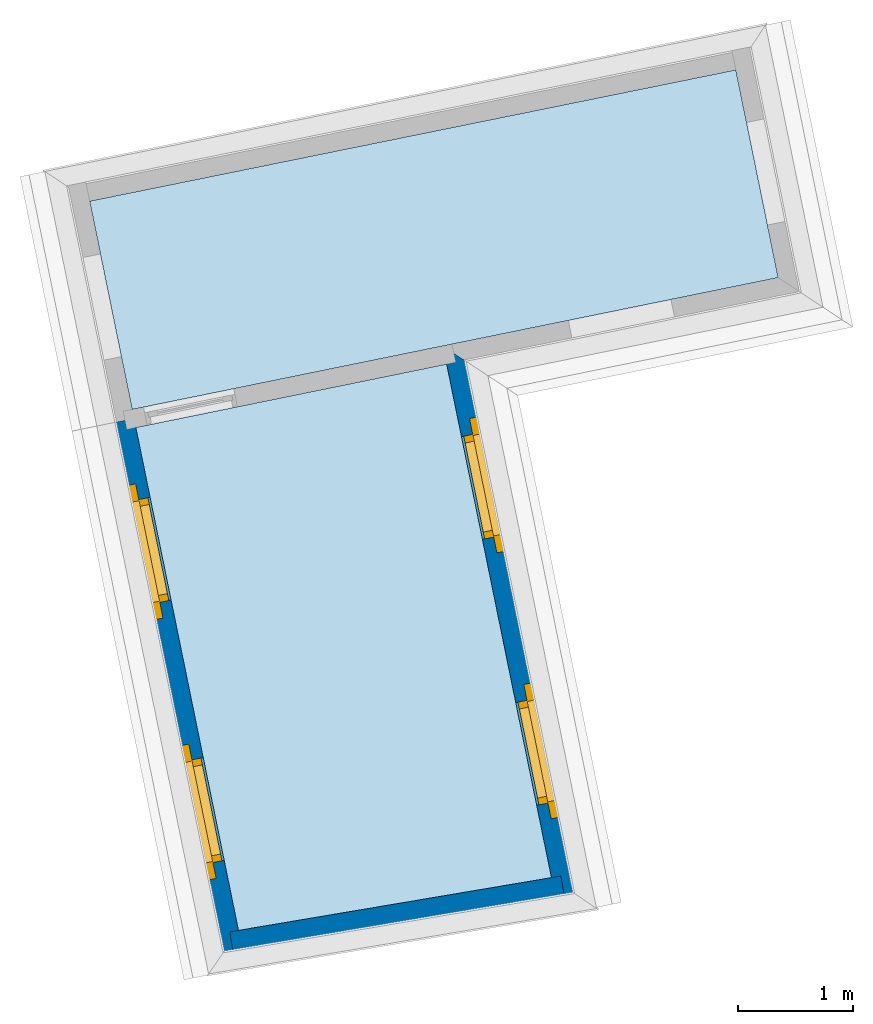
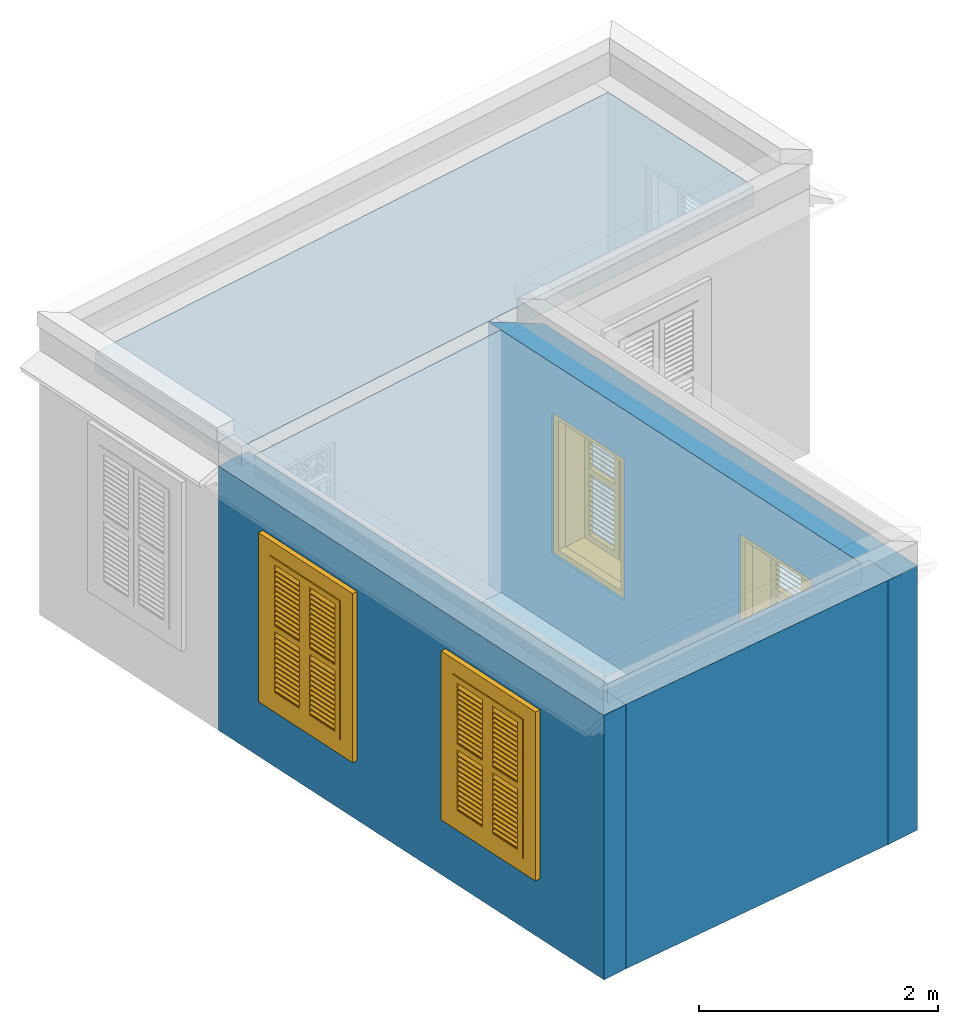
# One storey, part 1 of 5: 4 windows, 3 slabs, 3 walls, 4 openings.
"""IFC4 building model written with IfcOpenShell, lengths in metres."""

from ifc_helpers import new_model, si_unit, frame, origin, origin_with_axes, place, context, subcontext, project, spatial, polyline, outline, extrude, faceted_brep, source, transform, mapped, material, layer, layer_set, layer_usage, type_object, type_shapes, element, fill, save


model = new_model("IFC4")

# Units and contexts
model_context = context("Model", 3, world=origin_with_axes())
body_context = subcontext(model_context, "Body", "Model", "MODEL_VIEW")
ifc_project = project(units=[si_unit("PLANEANGLEUNIT", "RADIAN"), si_unit("MASSUNIT", "GRAM", prefix="KILO"), si_unit("FORCEUNIT", "NEWTON", prefix="KILO"), si_unit("LENGTHUNIT", "METRE"), si_unit("AREAUNIT", "SQUARE_METRE"), si_unit("VOLUMEUNIT", "CUBIC_METRE")], contexts=[model_context, model_context])

# Site, building, storey
site_placement = place(None, origin_with_axes())
site = spatial("IfcSite", under=ifc_project, at=site_placement, Name="Site plot-7", CompositionType="ELEMENT")
building_placement = place(None, origin_with_axes())
building = spatial("IfcBuilding", under=site, at=building_placement, Name="Building plot-7", CompositionType="ELEMENT")
storey_placement = place(None, frame((0.0, 0.0, 5.7), z_axis=(0.0, 0.0, 1.0), x_axis=(1.0, 0.0, 0.0)))
storey = spatial("IfcBuildingStorey", under=building, at=storey_placement, Name="plot-7 2", CompositionType="ELEMENT", Elevation=5.7)

# Slabs
slab_1_placement = place(storey_placement, frame((-6.27880088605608, 10.2471880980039, 2.5)))
element("IfcSlab", 1, at=slab_1_placement, inside=storey, Name="My Slab", ObjectType="Slab", PredefinedType="FLOOR", context=body_context, shape_type="SweptSolid", body=[
    extrude(outline(polyline([(0.0, 0.0), (-0.36803747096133, 1.80353856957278), (-5.97841320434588, 0.664036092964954), (-5.60932297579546, -1.14466143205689), (0.0, 0.0)])), origin_with_axes(), (0.0, 0.0, 1.0), 0.2),
])
slab_2_placement = place(storey_placement, frame((-9.15748605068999, 9.49645441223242, 2.5)))
element("IfcSlab", 2, at=slab_2_placement, inside=storey, Name="My Slab", ObjectType="Slab", PredefinedType="FLOOR", context=body_context, shape_type="SweptSolid", body=[
    extrude(outline(polyline([(0.0, 0.0), (-2.69864684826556, -0.550696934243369), (-1.80760958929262, -4.9171546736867), (0.90989582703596, -4.45887266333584), (0.0, 0.0)])), origin_with_axes(), (0.0, 0.0, 1.0), 0.2),
])
slab_3_placement = place(storey_placement, frame((-9.15748605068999, 9.49645441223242, 0.0)))
element("IfcSlab", 3, at=slab_3_placement, inside=storey, Name="My Slab", ObjectType="Slab", PredefinedType="FLOOR", context=body_context, shape_type="SweptSolid", body=[
    extrude(outline(polyline([(0.0, 0.0), (-2.69864684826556, -0.550696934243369), (-1.80760958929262, -4.9171546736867), (0.90989582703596, -4.45887266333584), (0.0, 0.0)])), origin_with_axes(), (0.0, 0.0, 1.0), 0.02),
])

# Wall, openings, windows
ifc_material_1 = material(Name="Masonry")
ifc_layer_1 = layer(ifc_material_1, 0.33, ventilated=False)
ifc_layer_set_1 = layer_set([ifc_layer_1], Name="exterior_0.08_0.25")
ifc_layer_usage_1 = layer_usage(ifc_layer_set_1, "AXIS2", "POSITIVE", -0.25)
wall_type_1 = type_object("IfcWallType", Name="exterior_0.08_0.25", PredefinedType="SOLIDWALL", material=ifc_layer_set_1)
wall_1_placement = place(storey_placement, frame((-11.9505129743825, 9.00814659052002, 0.0), z_axis=(0.0, 0.0, 1.0), x_axis=(0.199943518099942, -0.979807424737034, 0.0)))
wall_1 = element("IfcWall", 4, at=wall_1_placement, inside=storey, type_object=wall_type_1, material=ifc_layer_usage_1, Name="exterior", context=body_context, shape_type="SweptSolid", body=[
    extrude(outline(polyline([(-2.89056306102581e-15, 0.0799999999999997), (9.27994915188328e-15, -0.25), (4.86375213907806, -0.25), (4.86375213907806, 0.0800000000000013), (-2.89056306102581e-15, 0.0799999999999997)])), origin_with_axes(), (0.0, 0.0, 1.0), 2.7),
])
opening_1_placement = place(wall_1_placement, frame((0.698438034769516, 0.0, 0.75)))
opening_1 = element("IfcOpeningElement", 5, at=opening_1_placement, cuts=wall_1, Name="My Opening", ObjectType="Opening", context=body_context, shape_type="SweptSolid", body=[
    extrude(outline(polyline([(0.0, -0.270000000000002), (0.91, -0.270000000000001), (0.91, 1.1), (-1.4432899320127e-15, 1.1), (0.0, -0.270000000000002)])), origin_with_axes(), (0.0, 0.0, 1.0), 1.445),
])
opening_2_placement = place(wall_1_placement, frame((3.00531410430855, 0.0, 0.75)))
opening_2 = element("IfcOpeningElement", 6, at=opening_2_placement, cuts=wall_1, Name="My Opening", ObjectType="Opening", context=body_context, shape_type="SweptSolid", body=[
    extrude(outline(polyline([(0.0, -0.270000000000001), (0.91, -0.27), (0.910000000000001, 1.1), (4.44089209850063e-16, 1.1), (0.0, -0.270000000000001)])), origin_with_axes(), (0.0, 0.0, 1.0), 1.445),
])
window_type = type_object("IfcWindowType", Name="shuttered_shorter", PartitioningType="DOUBLE_PANEL_HORIZONTAL", PredefinedType="NOTDEFINED")
shared_shape = source(origin(), body_context, "Body", "Brep", [
    faceted_brep([(0.393, 0.0, 0.622), (0.074, 0.0, 0.622), (0.074, 0.0, 0.632), (0.393, 0.0, 0.632), (0.074, -0.04, 0.592), (0.393, -0.04, 0.592), (0.393, -0.04, 0.582), (0.074, -0.04, 0.582), (0.517, 0.0, 0.682), (0.836, 0.0, 0.682), (0.836, 0.0, 0.672), (0.517, 0.0, 0.672), (0.517, -0.04, 0.642), (0.836, -0.04, 0.642), (0.836, -0.04, 0.632), (0.517, -0.04, 0.632), (0.517, 0.0, 0.632), (0.836, 0.0, 0.632), (0.836, 0.0, 0.622), (0.517, 0.0, 0.622), (0.517, -0.04, 0.592), (0.836, -0.04, 0.592), (0.836, -0.04, 0.582), (0.517, -0.04, 0.582), (0.517, 0.0, 0.232), (0.836, 0.0, 0.232), (0.836, 0.0, 0.222), (0.517, 0.0, 0.222), (0.517, -0.04, 0.192), (0.836, -0.04, 0.192), (0.836, -0.04, 0.182), (0.517, -0.04, 0.182), (0.517, 0.0, 0.532), (0.836, 0.0, 0.532), (0.836, 0.0, 0.522), (0.517, 0.0, 0.522), (0.517, -0.04, 0.492), (0.836, -0.04, 0.492), (0.836, -0.04, 0.482), (0.517, -0.04, 0.482), (0.517, 0.0, 0.482), (0.836, 0.0, 0.482), (0.836, 0.0, 0.472), (0.517, 0.0, 0.472), (0.517, -0.04, 0.442), (0.836, -0.04, 0.442), (0.836, -0.04, 0.432), (0.517, -0.04, 0.432), (0.517, 0.0, 0.582), (0.836, 0.0, 0.582), (0.836, 0.0, 0.572), (0.517, 0.0, 0.572), (0.517, -0.04, 0.542), (0.836, -0.04, 0.542), (0.836, -0.04, 0.532), (0.517, -0.04, 0.532), (0.517, 0.0, 0.182), (0.836, 0.0, 0.182), (0.836, 0.0, 0.172), (0.517, 0.0, 0.172), (0.517, -0.04, 0.142), (0.836, -0.04, 0.142), (0.836, -0.04, 0.132), (0.517, -0.04, 0.132), (0.517, 0.0, 0.382), (0.836, 0.0, 0.382), (0.836, 0.0, 0.372), (0.517, 0.0, 0.372), (0.517, -0.04, 0.342), (0.836, -0.04, 0.342), (0.836, -0.04, 0.332), (0.517, -0.04, 0.332), (0.517, 0.0, 0.432), (0.836, 0.0, 0.432), (0.836, 0.0, 0.422), (0.517, 0.0, 0.422), (0.517, -0.04, 0.392), (0.836, -0.04, 0.392), (0.836, -0.04, 0.382), (0.517, -0.04, 0.382), (0.517, 0.0, 0.132), (0.836, 0.0, 0.132), (0.836, 0.0, 0.122), (0.517, 0.0, 0.122), (0.517, -0.04, 0.092), (0.836, -0.04, 0.092), (0.836, -0.04, 0.082), (0.517, -0.04, 0.082), (0.517, 0.0, 0.282), (0.836, 0.0, 0.282), (0.836, 0.0, 0.272), (0.517, 0.0, 0.272), (0.517, -0.04, 0.242), (0.836, -0.04, 0.242), (0.836, -0.04, 0.232), (0.517, -0.04, 0.232), (0.517, 0.0, 0.332), (0.836, 0.0, 0.332), (0.836, 0.0, 0.322), (0.517, 0.0, 0.322), (0.517, -0.04, 0.292), (0.836, -0.04, 0.292), (0.836, -0.04, 0.282), (0.517, -0.04, 0.282), (0.517, 0.0, 1.362667), (0.836, 0.0, 1.362667), (0.836, 0.0, 1.352667), (0.517, 0.0, 1.352667), (0.517, -0.04, 1.322667), (0.836, -0.04, 1.322667), (0.836, -0.04, 1.312667), (0.517, -0.04, 1.312667), (0.517, 0.0, 1.312667), (0.836, 0.0, 1.312667), (0.836, 0.0, 1.302667), (0.517, 0.0, 1.302667), (0.517, -0.04, 1.272667), (0.836, -0.04, 1.272667), (0.836, -0.04, 1.262667), (0.517, -0.04, 1.262667), (0.517, 0.0, 0.912667), (0.836, 0.0, 0.912667), (0.836, 0.0, 0.902667), (0.517, 0.0, 0.902667), (0.517, -0.04, 0.872667), (0.836, -0.04, 0.872667), (0.836, -0.04, 0.862667), (0.517, -0.04, 0.862667), (0.517, 0.0, 1.212667), (0.836, 0.0, 1.212667), (0.836, 0.0, 1.202667), (0.517, 0.0, 1.202667), (0.517, -0.04, 1.172667), (0.836, -0.04, 1.172667), (0.836, -0.04, 1.162667), (0.517, -0.04, 1.162667), (0.517, 0.0, 1.162667), (0.836, 0.0, 1.162667), (0.836, 0.0, 1.152667), (0.517, 0.0, 1.152667), (0.517, -0.04, 1.122667), (0.836, -0.04, 1.122667), (0.836, -0.04, 1.112667), (0.517, -0.04, 1.112667), (0.517, 0.0, 1.262667), (0.836, 0.0, 1.262667), (0.836, 0.0, 1.252667), (0.517, 0.0, 1.252667), (0.517, -0.04, 1.222667), (0.836, -0.04, 1.222667), (0.836, -0.04, 1.212667), (0.517, -0.04, 1.212667), (0.517, 0.0, 0.862667), (0.836, 0.0, 0.862667), (0.836, 0.0, 0.852667), (0.517, 0.0, 0.852667), (0.517, -0.04, 0.822667), (0.836, -0.04, 0.822667), (0.836, -0.04, 0.812667), (0.517, -0.04, 0.812667), (0.517, 0.0, 1.062667), (0.836, 0.0, 1.062667), (0.836, 0.0, 1.052667), (0.517, 0.0, 1.052667), (0.517, -0.04, 1.022667), (0.836, -0.04, 1.022667), (0.836, -0.04, 1.012667), (0.517, -0.04, 1.012667), (0.517, 0.0, 1.112667), (0.836, 0.0, 1.112667), (0.836, 0.0, 1.102667), (0.517, 0.0, 1.102667), (0.517, -0.04, 1.072667), (0.836, -0.04, 1.072667), (0.836, -0.04, 1.062667), (0.517, -0.04, 1.062667), (0.517, 0.0, 0.812667), (0.836, 0.0, 0.812667), (0.836, 0.0, 0.802667), (0.517, 0.0, 0.802667), (0.517, -0.04, 0.772667), (0.836, -0.04, 0.772667), (0.836, -0.04, 0.762667), (0.517, -0.04, 0.762667), (0.517, 0.0, 0.962667), (0.836, 0.0, 0.962667), (0.836, 0.0, 0.952667), (0.517, 0.0, 0.952667), (0.517, -0.04, 0.922667), (0.836, -0.04, 0.922667), (0.836, -0.04, 0.912667), (0.517, -0.04, 0.912667), (0.517, 0.0, 1.012667), (0.836, 0.0, 1.012667), (0.836, 0.0, 1.002667), (0.517, 0.0, 1.002667), (0.517, -0.04, 0.972667), (0.836, -0.04, 0.972667), (0.836, -0.04, 0.962667), (0.517, -0.04, 0.962667), (0.074, 0.0, 0.682), (0.393, 0.0, 0.682), (0.393, 0.0, 0.672), (0.074, 0.0, 0.672), (0.074, -0.04, 0.642), (0.393, -0.04, 0.642), (0.393, -0.04, 0.632), (0.074, -0.04, 0.632), (0.074, 0.0, 0.232), (0.393, 0.0, 0.232), (0.393, 0.0, 0.222), (0.074, 0.0, 0.222), (0.074, -0.04, 0.192), (0.393, -0.04, 0.192), (0.393, -0.04, 0.182), (0.074, -0.04, 0.182), (0.074, 0.0, 0.532), (0.393, 0.0, 0.532), (0.393, 0.0, 0.522), (0.074, 0.0, 0.522), (0.074, -0.04, 0.492), (0.393, -0.04, 0.492), (0.393, -0.04, 0.482), (0.074, -0.04, 0.482), (0.074, 0.0, 0.482), (0.393, 0.0, 0.482), (0.393, 0.0, 0.472), (0.074, 0.0, 0.472), (0.074, -0.04, 0.442), (0.393, -0.04, 0.442), (0.393, -0.04, 0.432), (0.074, -0.04, 0.432), (0.074, 0.0, 0.582), (0.393, 0.0, 0.582), (0.393, 0.0, 0.572), (0.074, 0.0, 0.572), (0.074, -0.04, 0.542), (0.393, -0.04, 0.542), (0.393, -0.04, 0.532), (0.074, -0.04, 0.532), (0.074, 0.0, 0.182), (0.393, 0.0, 0.182), (0.393, 0.0, 0.172), (0.074, 0.0, 0.172), (0.074, -0.04, 0.142), (0.393, -0.04, 0.142), (0.393, -0.04, 0.132), (0.074, -0.04, 0.132), (0.074, 0.0, 0.382), (0.393, 0.0, 0.382), (0.393, 0.0, 0.372), (0.074, 0.0, 0.372), (0.074, -0.04, 0.342), (0.393, -0.04, 0.342), (0.393, -0.04, 0.332), (0.074, -0.04, 0.332), (0.074, 0.0, 0.432), (0.393, 0.0, 0.432), (0.393, 0.0, 0.422), (0.074, 0.0, 0.422), (0.074, -0.04, 0.392), (0.393, -0.04, 0.392), (0.393, -0.04, 0.382), (0.074, -0.04, 0.382), (0.074, 0.0, 0.132), (0.393, 0.0, 0.132), (0.393, 0.0, 0.122), (0.074, 0.0, 0.122), (0.074, -0.04, 0.092), (0.393, -0.04, 0.092), (0.393, -0.04, 0.082), (0.074, -0.04, 0.082), (0.074, 0.0, 0.282), (0.393, 0.0, 0.282), (0.393, 0.0, 0.272), (0.074, 0.0, 0.272), (0.074, -0.04, 0.242), (0.393, -0.04, 0.242), (0.393, -0.04, 0.232), (0.074, -0.04, 0.232), (0.074, 0.0, 0.332), (0.393, 0.0, 0.332), (0.393, 0.0, 0.322), (0.074, 0.0, 0.322), (0.074, -0.04, 0.292), (0.393, -0.04, 0.292), (0.393, -0.04, 0.282), (0.074, -0.04, 0.282), (0.074, 0.0, 1.362667), (0.393, 0.0, 1.362667), (0.393, 0.0, 1.352667), (0.074, 0.0, 1.352667), (0.074, -0.04, 1.322667), (0.393, -0.04, 1.322667), (0.393, -0.04, 1.312667), (0.074, -0.04, 1.312667), (0.074, 0.0, 1.312667), (0.393, 0.0, 1.312667), (0.393, 0.0, 1.302667), (0.074, 0.0, 1.302667), (0.074, -0.04, 1.272667), (0.393, -0.04, 1.272667), (0.393, -0.04, 1.262667), (0.074, -0.04, 1.262667), (0.074, 0.0, 0.912667), (0.393, 0.0, 0.912667), (0.393, 0.0, 0.902667), (0.074, 0.0, 0.902667), (0.074, -0.04, 0.872667), (0.393, -0.04, 0.872667), (0.393, -0.04, 0.862667), (0.074, -0.04, 0.862667), (0.074, 0.0, 1.212667), (0.393, 0.0, 1.212667), (0.393, 0.0, 1.202667), (0.074, 0.0, 1.202667), (0.074, -0.04, 1.172667), (0.393, -0.04, 1.172667), (0.393, -0.04, 1.162667), (0.074, -0.04, 1.162667), (0.074, 0.0, 1.162667), (0.393, 0.0, 1.162667), (0.393, 0.0, 1.152667), (0.074, 0.0, 1.152667), (0.074, -0.04, 1.122667), (0.393, -0.04, 1.122667), (0.393, -0.04, 1.112667), (0.074, -0.04, 1.112667), (0.074, 0.0, 1.262667), (0.393, 0.0, 1.262667), (0.393, 0.0, 1.252667), (0.074, 0.0, 1.252667), (0.074, -0.04, 1.222667), (0.393, -0.04, 1.222667), (0.393, -0.04, 1.212667), (0.074, -0.04, 1.212667), (0.074, 0.0, 0.862667), (0.393, 0.0, 0.862667), (0.393, 0.0, 0.852667), (0.074, 0.0, 0.852667), (0.074, -0.04, 0.822667), (0.393, -0.04, 0.822667), (0.393, -0.04, 0.812667), (0.074, -0.04, 0.812667), (0.074, 0.0, 1.062667), (0.393, 0.0, 1.062667), (0.393, 0.0, 1.052667), (0.074, 0.0, 1.052667), (0.074, -0.04, 1.022667), (0.393, -0.04, 1.022667), (0.393, -0.04, 1.012667), (0.074, -0.04, 1.012667), (0.074, 0.0, 1.112667), (0.393, 0.0, 1.112667), (0.393, 0.0, 1.102667), (0.074, 0.0, 1.102667), (0.074, -0.04, 1.072667), (0.393, -0.04, 1.072667), (0.393, -0.04, 1.062667), (0.074, -0.04, 1.062667), (0.074, 0.0, 0.812667), (0.393, 0.0, 0.812667), (0.393, 0.0, 0.802667), (0.074, 0.0, 0.802667), (0.074, -0.04, 0.772667), (0.393, -0.04, 0.772667), (0.393, -0.04, 0.762667), (0.074, -0.04, 0.762667), (0.074, 0.0, 0.962667), (0.393, 0.0, 0.962667), (0.393, 0.0, 0.952667), (0.074, 0.0, 0.952667), (0.074, -0.04, 0.922667), (0.393, -0.04, 0.922667), (0.393, -0.04, 0.912667), (0.074, -0.04, 0.912667), (0.074, 0.0, 1.012667), (0.393, 0.0, 1.012667), (0.393, 0.0, 1.002667), (0.074, 0.0, 1.002667), (0.074, -0.04, 0.972667), (0.393, -0.04, 0.972667), (0.393, -0.04, 0.962667), (0.074, -0.04, 0.962667), (0.517, -0.04, 0.072), (0.457, -0.04, 0.012), (0.896, -0.04, 0.012), (0.836, -0.04, 0.072), (0.457, -0.04, 0.692667), (0.517, -0.04, 0.692667), (0.457, 0.0, 0.012), (0.896, 0.0, 0.012), (0.836, -0.04, 0.692667), (0.896, -0.04, 0.692667), (0.836, 0.0, 0.072), (0.517, 0.0, 0.072), (0.457, 0.0, 0.692667), (0.517, 0.0, 0.692667), (0.517, -0.04, 0.752666), (0.457, -0.04, 0.752666), (0.896, 0.0, 0.692667), (0.836, 0.0, 0.692667), (0.836, -0.04, 0.752666), (0.896, -0.04, 0.752666), (0.457, 0.0, 0.752666), (0.457, -0.04, 1.433333), (0.517, -0.04, 1.373333), (0.896, 0.0, 0.752666), (0.836, -0.04, 1.373333), (0.896, -0.04, 1.433333), (0.457, 0.0, 1.433333), (0.517, 0.0, 0.752666), (0.836, 0.0, 0.752666), (0.517, 0.0, 1.373333), (0.896, 0.0, 1.433333), (0.836, 0.0, 1.373333), (0.074, -0.04, 0.072), (0.014, -0.04, 0.012), (0.453, -0.04, 0.012), (0.393, -0.04, 0.072), (0.014, -0.04, 0.692667), (0.074, -0.04, 0.692667), (0.014, 0.0, 0.012), (0.453, 0.0, 0.012), (0.393, -0.04, 0.692667), (0.453, -0.04, 0.692667), (0.393, 0.0, 0.072), (0.074, 0.0, 0.072), (0.014, 0.0, 0.692667), (0.074, 0.0, 0.692667), (0.074, -0.04, 0.752666), (0.014, -0.04, 0.752666), (0.453, 0.0, 0.692667), (0.393, 0.0, 0.692667), (0.393, -0.04, 0.752666), (0.453, -0.04, 0.752666), (0.014, 0.0, 0.752666), (0.014, -0.04, 1.433333), (0.074, -0.04, 1.373333), (0.453, 0.0, 0.752666), (0.393, -0.04, 1.373333), (0.453, -0.04, 1.433333), (0.014, 0.0, 1.433333), (0.074, 0.0, 0.752666), (0.393, 0.0, 0.752666), (0.074, 0.0, 1.373333), (0.453, 0.0, 1.433333), (0.393, 0.0, 1.373333), (0.0, 0.33, 1.445), (0.91, 0.33, 1.445), (0.85, 0.33, 1.385), (0.06, 0.33, 1.385), (0.91, 0.25, 1.445), (0.0, 0.25, 1.445), (0.91, 0.25, 1.445), (0.85, 0.33, 0.06), (0.91, 0.33, 0.0), (0.85, 0.25, 1.385), (0.06, 0.25, 1.385), (0.0, 0.33, 0.0), (0.06, 0.33, 0.06), (0.0, 0.25, 0.0), (0.91, 0.25, 0.0), (0.85, 0.25, 0.06), (0.06, 0.25, 0.06), (1.05, 0.25, 1.585), (-0.14, 0.25, 1.585), (-0.14, -0.03, 1.585), (1.05, -0.03, 1.585), (0.9, -0.03, 1.435), (0.01, -0.03, 1.435), (0.01, 0.25, 1.435), (0.9, 0.25, 1.435), (0.9, 0.25, 0.01), (0.9, -0.03, 0.01), (1.05, -0.03, -0.14), (1.05, 0.25, -0.14), (0.01, -0.03, 0.01), (0.01, 0.25, 0.01), (-0.14, -0.03, -0.14), (-0.14, 0.25, -0.14)], [[[0, 1, 2, 3]], [[4, 5, 3, 2]], [[5, 6, 0, 3]], [[1, 0, 6, 7]], [[2, 1, 7, 4]], [[5, 4, 7, 6]], [[8, 9, 10, 11]], [[12, 13, 9, 8]], [[13, 14, 10, 9]], [[14, 15, 11, 10]], [[15, 12, 8, 11]], [[13, 12, 15, 14]], [[16, 17, 18, 19]], [[20, 21, 17, 16]], [[21, 22, 18, 17]], [[22, 23, 19, 18]], [[23, 20, 16, 19]], [[21, 20, 23, 22]], [[24, 25, 26, 27]], [[28, 29, 25, 24]], [[29, 30, 26, 25]], [[30, 31, 27, 26]], [[31, 28, 24, 27]], [[29, 28, 31, 30]], [[32, 33, 34, 35]], [[36, 37, 33, 32]], [[37, 38, 34, 33]], [[38, 39, 35, 34]], [[39, 36, 32, 35]], [[37, 36, 39, 38]], [[40, 41, 42, 43]], [[44, 45, 41, 40]], [[45, 46, 42, 41]], [[46, 47, 43, 42]], [[47, 44, 40, 43]], [[45, 44, 47, 46]], [[48, 49, 50, 51]], [[52, 53, 49, 48]], [[53, 54, 50, 49]], [[54, 55, 51, 50]], [[55, 52, 48, 51]], [[53, 52, 55, 54]], [[56, 57, 58, 59]], [[60, 61, 57, 56]], [[61, 62, 58, 57]], [[62, 63, 59, 58]], [[63, 60, 56, 59]], [[61, 60, 63, 62]], [[64, 65, 66, 67]], [[68, 69, 65, 64]], [[69, 70, 66, 65]], [[70, 71, 67, 66]], [[71, 68, 64, 67]], [[69, 68, 71, 70]], [[72, 73, 74, 75]], [[76, 77, 73, 72]], [[77, 78, 74, 73]], [[78, 79, 75, 74]], [[79, 76, 72, 75]], [[77, 76, 79, 78]], [[80, 81, 82, 83]], [[84, 85, 81, 80]], [[85, 86, 82, 81]], [[86, 87, 83, 82]], [[87, 84, 80, 83]], [[85, 84, 87, 86]], [[88, 89, 90, 91]], [[92, 93, 89, 88]], [[93, 94, 90, 89]], [[94, 95, 91, 90]], [[95, 92, 88, 91]], [[93, 92, 95, 94]], [[96, 97, 98, 99]], [[100, 101, 97, 96]], [[101, 102, 98, 97]], [[102, 103, 99, 98]], [[103, 100, 96, 99]], [[101, 100, 103, 102]], [[104, 105, 106, 107]], [[108, 109, 105, 104]], [[109, 110, 106, 105]], [[110, 111, 107, 106]], [[111, 108, 104, 107]], [[109, 108, 111, 110]], [[112, 113, 114, 115]], [[116, 117, 113, 112]], [[117, 118, 114, 113]], [[118, 119, 115, 114]], [[119, 116, 112, 115]], [[117, 116, 119, 118]], [[120, 121, 122, 123]], [[124, 125, 121, 120]], [[125, 126, 122, 121]], [[126, 127, 123, 122]], [[127, 124, 120, 123]], [[125, 124, 127, 126]], [[128, 129, 130, 131]], [[132, 133, 129, 128]], [[133, 134, 130, 129]], [[134, 135, 131, 130]], [[135, 132, 128, 131]], [[133, 132, 135, 134]], [[136, 137, 138, 139]], [[140, 141, 137, 136]], [[141, 142, 138, 137]], [[142, 143, 139, 138]], [[139, 143, 140, 136]], [[141, 140, 143, 142]], [[144, 145, 146, 147]], [[148, 149, 145, 144]], [[149, 150, 146, 145]], [[150, 151, 147, 146]], [[151, 148, 144, 147]], [[149, 148, 151, 150]], [[152, 153, 154, 155]], [[156, 157, 153, 152]], [[157, 158, 154, 153]], [[158, 159, 155, 154]], [[159, 156, 152, 155]], [[157, 156, 159, 158]], [[160, 161, 162, 163]], [[164, 165, 161, 160]], [[165, 166, 162, 161]], [[166, 167, 163, 162]], [[167, 164, 160, 163]], [[165, 164, 167, 166]], [[168, 169, 170, 171]], [[172, 173, 169, 168]], [[173, 174, 170, 169]], [[174, 175, 171, 170]], [[175, 172, 168, 171]], [[173, 172, 175, 174]], [[176, 177, 178, 179]], [[180, 181, 177, 176]], [[181, 182, 178, 177]], [[182, 183, 179, 178]], [[183, 180, 176, 179]], [[181, 180, 183, 182]], [[184, 185, 186, 187]], [[188, 189, 185, 184]], [[189, 190, 186, 185]], [[190, 191, 187, 186]], [[191, 188, 184, 187]], [[189, 188, 191, 190]], [[192, 193, 194, 195]], [[196, 197, 193, 192]], [[197, 198, 194, 193]], [[198, 199, 195, 194]], [[199, 196, 192, 195]], [[197, 196, 199, 198]], [[200, 201, 202, 203]], [[204, 205, 201, 200]], [[205, 206, 202, 201]], [[206, 207, 203, 202]], [[207, 204, 200, 203]], [[205, 204, 207, 206]], [[208, 209, 210, 211]], [[212, 213, 209, 208]], [[213, 214, 210, 209]], [[214, 215, 211, 210]], [[215, 212, 208, 211]], [[213, 212, 215, 214]], [[216, 217, 218, 219]], [[220, 221, 217, 216]], [[221, 222, 218, 217]], [[222, 223, 219, 218]], [[223, 220, 216, 219]], [[221, 220, 223, 222]], [[224, 225, 226, 227]], [[228, 229, 225, 224]], [[229, 230, 226, 225]], [[230, 231, 227, 226]], [[231, 228, 224, 227]], [[229, 228, 231, 230]], [[232, 233, 234, 235]], [[236, 237, 233, 232]], [[237, 238, 234, 233]], [[238, 239, 235, 234]], [[239, 236, 232, 235]], [[237, 236, 239, 238]], [[240, 241, 242, 243]], [[244, 245, 241, 240]], [[245, 246, 242, 241]], [[246, 247, 243, 242]], [[247, 244, 240, 243]], [[245, 244, 247, 246]], [[248, 249, 250, 251]], [[252, 253, 249, 248]], [[253, 254, 250, 249]], [[254, 255, 251, 250]], [[255, 252, 248, 251]], [[253, 252, 255, 254]], [[256, 257, 258, 259]], [[260, 261, 257, 256]], [[261, 262, 258, 257]], [[262, 263, 259, 258]], [[263, 260, 256, 259]], [[261, 260, 263, 262]], [[264, 265, 266, 267]], [[268, 269, 265, 264]], [[269, 270, 266, 265]], [[270, 271, 267, 266]], [[271, 268, 264, 267]], [[269, 268, 271, 270]], [[272, 273, 274, 275]], [[276, 277, 273, 272]], [[277, 278, 274, 273]], [[278, 279, 275, 274]], [[279, 276, 272, 275]], [[277, 276, 279, 278]], [[280, 281, 282, 283]], [[284, 285, 281, 280]], [[285, 286, 282, 281]], [[286, 287, 283, 282]], [[287, 284, 280, 283]], [[285, 284, 287, 286]], [[288, 289, 290, 291]], [[292, 293, 289, 288]], [[293, 294, 290, 289]], [[294, 295, 291, 290]], [[295, 292, 288, 291]], [[293, 292, 295, 294]], [[296, 297, 298, 299]], [[300, 301, 297, 296]], [[301, 302, 298, 297]], [[302, 303, 299, 298]], [[303, 300, 296, 299]], [[301, 300, 303, 302]], [[304, 305, 306, 307]], [[308, 309, 305, 304]], [[309, 310, 306, 305]], [[310, 311, 307, 306]], [[311, 308, 304, 307]], [[309, 308, 311, 310]], [[312, 313, 314, 315]], [[316, 317, 313, 312]], [[317, 318, 314, 313]], [[318, 319, 315, 314]], [[319, 316, 312, 315]], [[317, 316, 319, 318]], [[320, 321, 322, 323]], [[324, 325, 321, 320]], [[325, 326, 322, 321]], [[326, 327, 323, 322]], [[327, 324, 320, 323]], [[325, 324, 327, 326]], [[328, 329, 330, 331]], [[332, 333, 329, 328]], [[333, 334, 330, 329]], [[334, 335, 331, 330]], [[335, 332, 328, 331]], [[333, 332, 335, 334]], [[336, 337, 338, 339]], [[340, 341, 337, 336]], [[341, 342, 338, 337]], [[342, 343, 339, 338]], [[343, 340, 336, 339]], [[341, 340, 343, 342]], [[344, 345, 346, 347]], [[348, 349, 345, 344]], [[349, 350, 346, 345]], [[350, 351, 347, 346]], [[351, 348, 344, 347]], [[349, 348, 351, 350]], [[352, 353, 354, 355]], [[356, 357, 353, 352]], [[357, 358, 354, 353]], [[358, 359, 355, 354]], [[359, 356, 352, 355]], [[357, 356, 359, 358]], [[360, 361, 362, 363]], [[364, 365, 361, 360]], [[365, 366, 362, 361]], [[366, 367, 363, 362]], [[367, 364, 360, 363]], [[365, 364, 367, 366]], [[368, 369, 370, 371]], [[372, 373, 369, 368]], [[373, 374, 370, 369]], [[374, 375, 371, 370]], [[375, 372, 368, 371]], [[373, 372, 375, 374]], [[376, 377, 378, 379]], [[380, 381, 377, 376]], [[381, 382, 378, 377]], [[382, 383, 379, 378]], [[383, 380, 376, 379]], [[381, 380, 383, 382]], [[384, 385, 386, 387]], [[388, 385, 384, 389]], [[390, 391, 386, 385]], [[392, 387, 386, 393]], [[384, 387, 394, 395]], [[390, 385, 388, 396]], [[389, 384, 395, 397]], [[389, 398, 399, 388]], [[390, 395, 394, 391]], [[400, 393, 386, 391]], [[387, 392, 401, 394]], [[402, 392, 393, 403]], [[396, 388, 399, 404]], [[390, 396, 397, 395]], [[392, 389, 397, 401]], [[398, 389, 392, 402]], [[405, 399, 398, 406]], [[394, 401, 400, 391]], [[407, 403, 393, 400]], [[408, 402, 403, 409]], [[404, 399, 405, 410]], [[411, 397, 396, 404]], [[397, 411, 412, 401]], [[398, 402, 412, 411]], [[406, 398, 411, 413]], [[405, 406, 408, 409]], [[401, 412, 407, 400]], [[414, 409, 403, 407]], [[402, 408, 415, 412]], [[405, 409, 414, 410]], [[404, 410, 413, 411]], [[408, 406, 413, 415]], [[412, 415, 414, 407]], [[413, 410, 414, 415]], [[416, 417, 418, 419]], [[420, 417, 416, 421]], [[422, 423, 418, 417]], [[424, 419, 418, 425]], [[416, 419, 426, 427]], [[422, 417, 420, 428]], [[421, 416, 427, 429]], [[421, 430, 431, 420]], [[422, 427, 426, 423]], [[432, 425, 418, 423]], [[419, 424, 433, 426]], [[434, 424, 425, 435]], [[428, 420, 431, 436]], [[422, 428, 429, 427]], [[424, 421, 429, 433]], [[430, 421, 424, 434]], [[437, 431, 430, 438]], [[426, 433, 432, 423]], [[439, 435, 425, 432]], [[440, 434, 435, 441]], [[436, 431, 437, 442]], [[443, 429, 428, 436]], [[429, 443, 444, 433]], [[430, 434, 444, 443]], [[438, 430, 443, 445]], [[437, 438, 440, 441]], [[433, 444, 439, 432]], [[446, 441, 435, 439]], [[434, 440, 447, 444]], [[437, 441, 446, 442]], [[436, 442, 445, 443]], [[440, 438, 445, 447]], [[444, 447, 446, 439]], [[445, 442, 446, 447]], [[448, 449, 450, 451]], [[452, 449, 448]], [[448, 453, 454]], [[448, 454, 452]], [[455, 450, 449, 456]], [[451, 450, 457, 458]], [[459, 448, 451, 460]], [[448, 459, 461, 453]], [[454, 453, 458, 457]], [[462, 452, 454]], [[454, 457, 463]], [[454, 463, 462]], [[456, 449, 452, 462]], [[450, 455, 463, 457]], [[456, 459, 460, 455]], [[460, 451, 458, 464]], [[459, 456, 462, 461]], [[464, 458, 453, 461]], [[461, 462, 463, 464]], [[455, 460, 464, 463]], [[465, 466, 467, 468]], [[469, 470, 471, 472]], [[473, 474, 469, 472]], [[465, 468, 475, 476]], [[470, 477, 478, 471]], [[474, 473, 478, 477]], [[474, 477, 479, 475]], [[470, 467, 479, 477]], [[470, 469, 468, 467]], [[474, 475, 468, 469]], [[471, 478, 480, 466]], [[473, 472, 465, 476]], [[473, 476, 480, 478]], [[466, 465, 472, 471]], [[480, 476, 475, 479]], [[480, 479, 467, 466]]]),
])
type_shapes(window_type, [shared_shape])
window_1_placement = place(storey_placement, frame((-12.0754128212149, 8.26982706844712, 0.75), z_axis=(0.0, 0.0, 1.0), x_axis=(0.181948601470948, -0.891624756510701, 0.0)))
window_1 = element("IfcWindow", 7, at=window_1_placement, inside=storey, type_object=window_type, Name="bedroom outside window", OverallHeight=1.445, OverallWidth=0.91, context=body_context, shape_type="MappedRepresentation", body=[
    mapped(shared_shape, transform((0.0, 0.0, 0.0), scale=1.0)),
])
fill(opening_1, window_1)
window_2_placement = place(storey_placement, frame((-11.6141679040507, 6.00953276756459, 0.75), z_axis=(0.0, 0.0, 1.0), x_axis=(0.181948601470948, -0.891624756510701, 0.0)))
window_2 = element("IfcWindow", 8, at=window_2_placement, inside=storey, type_object=window_type, Name="bedroom outside window", OverallHeight=1.445, OverallWidth=0.91, context=body_context, shape_type="MappedRepresentation", body=[
    mapped(shared_shape, transform((0.0, 0.0, 0.0), scale=1.0)),
])
fill(opening_2, window_2)

wall_2_placement = place(storey_placement, frame((-8.15265300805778, 4.97246241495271, 0.0), z_axis=(0.0, 0.0, 1.0), x_axis=(-0.199943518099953, 0.979807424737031, 0.0)))
wall_2 = element("IfcWall", 9, at=wall_2_placement, inside=storey, type_object=wall_type_1, material=ifc_layer_usage_1, Name="exterior", context=body_context, shape_type="SweptSolid", body=[
    extrude(outline(polyline([(-0.25, 0.0800000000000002), (-0.25, -0.25), (4.46355080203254, -0.250000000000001), (4.79355080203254, 0.0799999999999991), (-0.25, 0.0800000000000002)])), origin_with_axes(), (0.0, 0.0, 1.0), 2.7),
])
opening_3_placement = place(wall_2_placement, frame((0.723387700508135, 0.0, 0.75)))
opening_3 = element("IfcOpeningElement", 10, at=opening_3_placement, cuts=wall_2, Name="My Opening", ObjectType="Opening", context=body_context, shape_type="SweptSolid", body=[
    extrude(outline(polyline([(0.0, -0.269999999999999), (0.91, -0.27), (0.910000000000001, 1.1), (5.55111512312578e-16, 1.1), (0.0, -0.269999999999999)])), origin_with_axes(), (0.0, 0.0, 1.0), 1.445),
])
opening_4_placement = place(wall_2_placement, frame((3.0801631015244, 0.0, 0.75)))
opening_4 = element("IfcOpeningElement", 11, at=opening_4_placement, cuts=wall_2, Name="My Opening", ObjectType="Opening", context=body_context, shape_type="SweptSolid", body=[
    extrude(outline(polyline([(0.0, -0.269999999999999), (0.910000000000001, -0.27), (0.910000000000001, 1.1), (1.33226762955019e-15, 1.1), (0.0, -0.269999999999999)])), origin_with_axes(), (0.0, 0.0, 1.0), 1.445),
])
window_3_placement = place(storey_placement, frame((-8.03274168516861, 5.73522780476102, 0.75), z_axis=(0.0, 0.0, 1.0), x_axis=(-0.181948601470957, 0.891624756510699, 0.0)))
window_3 = element("IfcWindow", 12, at=window_3_placement, inside=storey, type_object=window_type, Name="bedroom sahn window", OverallHeight=1.445, OverallWidth=0.91, context=body_context, shape_type="MappedRepresentation", body=[
    mapped(shared_shape, transform((0.0, 0.0, 0.0), scale=1.0)),
])
fill(opening_3, window_3)
window_4_placement = place(storey_placement, frame((-8.50396365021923, 8.04441384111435, 0.75), z_axis=(0.0, 0.0, 1.0), x_axis=(-0.181948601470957, 0.891624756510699, 0.0)))
window_4 = element("IfcWindow", 13, at=window_4_placement, inside=storey, type_object=window_type, Name="bedroom sahn window", OverallHeight=1.445, OverallWidth=0.91, context=body_context, shape_type="MappedRepresentation", body=[
    mapped(shared_shape, transform((0.0, 0.0, 0.0), scale=1.0)),
])
fill(opening_4, window_4)

# Wall
ifc_material_2 = material(Name="Masonry")
ifc_layer_2 = layer(ifc_material_2, 0.33, ventilated=False)
ifc_layer_set_2 = layer_set([ifc_layer_2], Name="party_0.08_0.25")
ifc_layer_usage_2 = layer_usage(ifc_layer_set_2, "AXIS2", "POSITIVE", -0.25)
wall_type_2 = type_object("IfcWallType", Name="party_0.08_0.25", PredefinedType="SOLIDWALL", material=ifc_layer_set_2)
wall_3_placement = place(storey_placement, frame((-11.0280231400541, 4.48755798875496, 0.0), z_axis=(0.0, 0.0, 1.0), x_axis=(0.986076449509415, 0.166292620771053, 0.0)))
element("IfcWall", 14, at=wall_3_placement, inside=storey, type_object=wall_type_2, material=ifc_layer_usage_2, Name="party", context=body_context, shape_type="SweptSolid", body=[
    extrude(outline(polyline([(-2.97082075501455e-16, 0.0800000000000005), (-9.57142174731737e-17, -0.25), (2.91597079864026, -0.25), (2.91597079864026, 0.0800000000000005), (-2.97082075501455e-16, 0.0800000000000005)])), origin_with_axes(), (0.0, 0.0, 1.0), 2.7),
])

save(model, "model.ifc")
